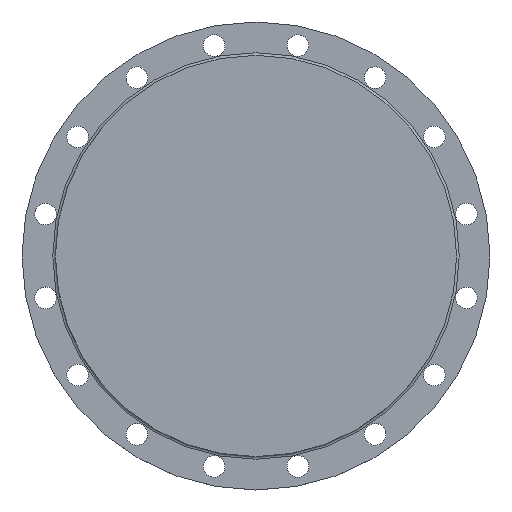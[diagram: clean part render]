
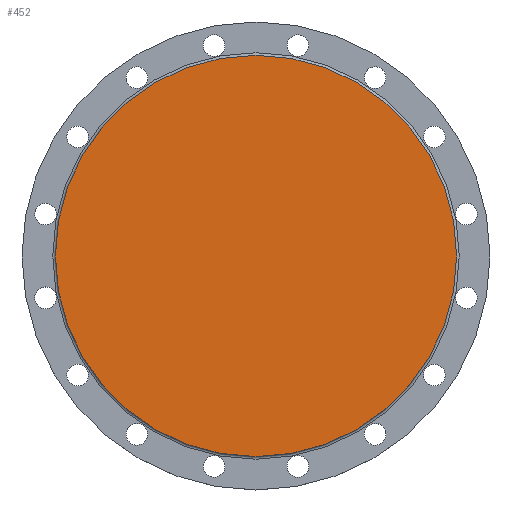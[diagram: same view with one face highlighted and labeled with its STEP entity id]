
A CAD part, top view. The second image highlights one B-rep face of the part: STEP entity #452.
In plain terms, the highlighted planar face has unit normal (0, 0, 1).
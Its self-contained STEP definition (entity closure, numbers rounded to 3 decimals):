
#100=PLANE('',#534);
#121=FACE_OUTER_BOUND('',#159,.T.);
#159=EDGE_LOOP('',(#412,#413));
#179=CIRCLE('',#477,231.5);
#180=CIRCLE('',#478,231.5);
#220=VERTEX_POINT('',#684);
#221=VERTEX_POINT('',#686);
#260=EDGE_CURVE('',#221,#220,#179,.T.);
#261=EDGE_CURVE('',#220,#221,#180,.T.);
#412=ORIENTED_EDGE('',*,*,#260,.T.);
#413=ORIENTED_EDGE('',*,*,#261,.T.);
#452=ADVANCED_FACE('',(#121),#100,.T.);
#477=AXIS2_PLACEMENT_3D('',#687,#544,#545);
#478=AXIS2_PLACEMENT_3D('',#688,#546,#547);
#534=AXIS2_PLACEMENT_3D('',#797,#675,#676);
#544=DIRECTION('center_axis',(0.,0.,1.));
#545=DIRECTION('ref_axis',(-1.,0.,0.));
#546=DIRECTION('center_axis',(0.,0.,1.));
#547=DIRECTION('ref_axis',(-1.,0.,0.));
#675=DIRECTION('center_axis',(0.,0.,1.));
#676=DIRECTION('ref_axis',(1.,0.,0.));
#684=CARTESIAN_POINT('',(-231.5,0.,24.));
#686=CARTESIAN_POINT('',(231.5,0.,24.));
#687=CARTESIAN_POINT('Origin',(0.,0.,24.));
#688=CARTESIAN_POINT('Origin',(0.,0.,24.));
#797=CARTESIAN_POINT('Origin',(0.,0.,24.));
